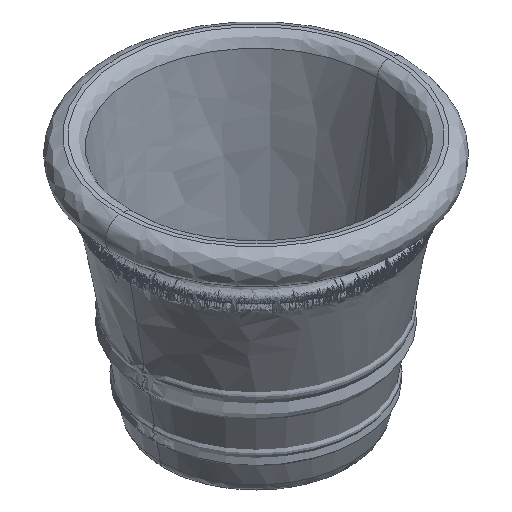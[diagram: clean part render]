
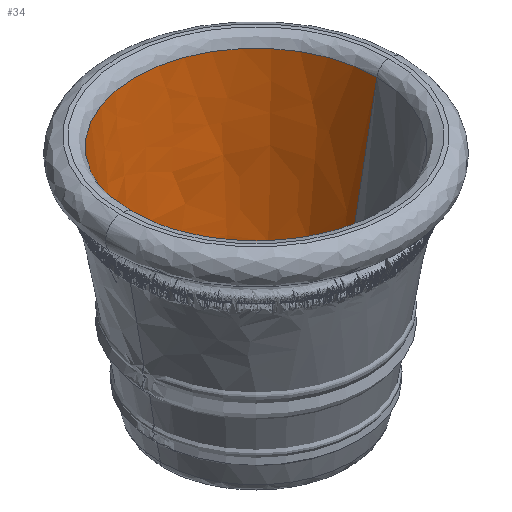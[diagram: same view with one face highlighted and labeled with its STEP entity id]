
A CAD part, isometric view. The second image highlights one B-rep face of the part: STEP entity #34.
In plain terms, the highlighted free-form (B-spline) face has degree [2, 1] with [5, 2] control points.
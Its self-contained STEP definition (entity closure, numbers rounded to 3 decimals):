
#34=ADVANCED_FACE('',(#56),#333,.T.);
#56=FACE_OUTER_BOUND('',#80,.T.);
#80=EDGE_LOOP('',(#156,#157,#158,#159));
#156=ORIENTED_EDGE('',*,*,#209,.T.);
#157=ORIENTED_EDGE('',*,*,#184,.T.);
#158=ORIENTED_EDGE('',*,*,#207,.F.);
#159=ORIENTED_EDGE('',*,*,#208,.F.);
#184=EDGE_CURVE('',#297,#295,#216,.T.);
#207=EDGE_CURVE('',#309,#295,#253,.T.);
#208=EDGE_CURVE('',#310,#309,#219,.T.);
#209=EDGE_CURVE('',#310,#297,#254,.T.);
#216=B_SPLINE_CURVE_WITH_KNOTS('',1,(#1511,#1512),.UNSPECIFIED.,.F.,.F.,
(2,2),(24.978,573.839),.UNSPECIFIED.);
#219=B_SPLINE_CURVE_WITH_KNOTS('',1,(#1650,#1651),.UNSPECIFIED.,.F.,.F.,
(2,2),(24.978,573.839),.UNSPECIFIED.);
#253=TRIMMED_CURVE($,#283,(#1648),(#1649),.T.,.CARTESIAN.);
#254=TRIMMED_CURVE($,#284,(#1653),(#1654),.T.,.CARTESIAN.);
#283=CIRCLE('',#453,135.946);
#284=CIRCLE('',#454,208.786);
#295=VERTEX_POINT('',#1383);
#297=VERTEX_POINT('',#1385);
#309=VERTEX_POINT('',#1397);
#310=VERTEX_POINT('',#1398);
#333=(
BOUNDED_SURFACE()
B_SPLINE_SURFACE(2,1,((#1337,#1338),(#1339,#1340),(#1341,#1342),(#1343,
#1344),(#1345,#1346)),.UNSPECIFIED.,.F.,.F.,.F.)
B_SPLINE_SURFACE_WITH_KNOTS((3,2,3),(2,2),(934.624,1401.936,
1869.248),(0.,573.839),.UNSPECIFIED.)
GEOMETRIC_REPRESENTATION_ITEM()
RATIONAL_B_SPLINE_SURFACE(((1.,1.),(0.707,0.707),
(1.,1.),(0.707,0.707),(1.,1.)))
REPRESENTATION_ITEM('')
SURFACE()
);
#453=AXIS2_PLACEMENT_3D($,#1647,#515,#516);
#454=AXIS2_PLACEMENT_3D($,#1652,#517,#518);
#515=DIRECTION('',(0.,0.,1.));
#516=DIRECTION('',(1.,0.,0.));
#517=DIRECTION('',(0.,0.,1.));
#518=DIRECTION('',(1.,0.,0.));
#1337=CARTESIAN_POINT('',(2506.352,0.,424.202));
#1338=CARTESIAN_POINT('',(2430.197,0.,24.888));
#1339=CARTESIAN_POINT('',(2506.352,212.101,424.202));
#1340=CARTESIAN_POINT('',(2430.197,135.946,24.888));
#1341=CARTESIAN_POINT('',(2294.251,212.101,424.202));
#1342=CARTESIAN_POINT('',(2294.251,135.946,24.888));
#1343=CARTESIAN_POINT('',(2082.15,212.101,424.202));
#1344=CARTESIAN_POINT('',(2158.305,135.946,24.888));
#1345=CARTESIAN_POINT('',(2082.15,0.,424.202));
#1346=CARTESIAN_POINT('',(2158.305,0.,24.888));
#1383=CARTESIAN_POINT('',(2158.305,0.,24.888));
#1385=CARTESIAN_POINT('',(2085.465,0.,406.821));
#1397=CARTESIAN_POINT('',(2430.197,0.,24.888));
#1398=CARTESIAN_POINT('',(2503.037,0.,406.821));
#1511=CARTESIAN_POINT('',(2085.465,0.,406.821));
#1512=CARTESIAN_POINT('',(2158.305,0.,24.888));
#1647=CARTESIAN_POINT('',(2294.251,0.,24.888));
#1648=CARTESIAN_POINT('',(2430.197,0.,24.888));
#1649=CARTESIAN_POINT('',(2158.305,0.,24.888));
#1650=CARTESIAN_POINT('',(2503.037,0.,406.821));
#1651=CARTESIAN_POINT('',(2430.197,0.,24.888));
#1652=CARTESIAN_POINT('',(2294.251,0.,406.821));
#1653=CARTESIAN_POINT('',(2503.037,0.,406.821));
#1654=CARTESIAN_POINT('',(2085.465,0.,406.821));
